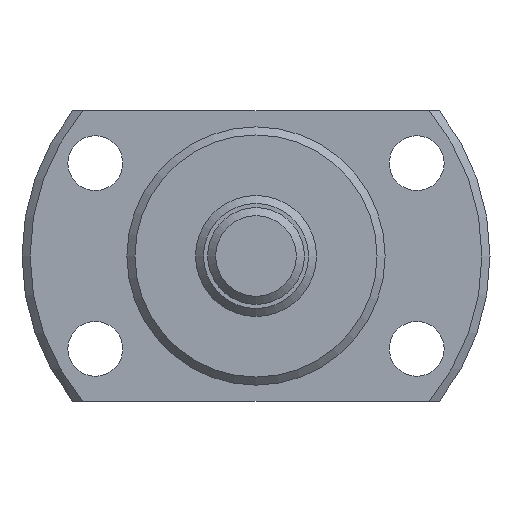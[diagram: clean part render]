
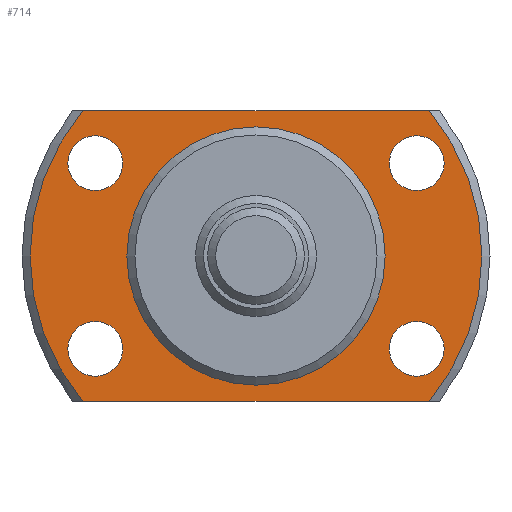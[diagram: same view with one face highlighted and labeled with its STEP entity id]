
A CAD part, left-side view. The second image highlights one B-rep face of the part: STEP entity #714.
In plain terms, the highlighted planar face has unit normal (-1, 0, 0).
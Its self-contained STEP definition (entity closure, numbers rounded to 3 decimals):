
#78=LINE('',#1249,#99);
#79=LINE('',#1253,#100);
#99=VECTOR('',#1030,1000.);
#100=VECTOR('',#1033,1000.);
#200=ORIENTED_EDGE('',*,*,#323,.T.);
#201=ORIENTED_EDGE('',*,*,#324,.T.);
#202=ORIENTED_EDGE('',*,*,#325,.T.);
#203=ORIENTED_EDGE('',*,*,#326,.T.);
#204=ORIENTED_EDGE('',*,*,#309,.F.);
#205=ORIENTED_EDGE('',*,*,#327,.T.);
#206=ORIENTED_EDGE('',*,*,#328,.F.);
#207=ORIENTED_EDGE('',*,*,#329,.T.);
#208=ORIENTED_EDGE('',*,*,#322,.T.);
#309=EDGE_CURVE('',#386,#387,#447,.T.);
#322=EDGE_CURVE('',#398,#398,#455,.T.);
#323=EDGE_CURVE('',#399,#399,#456,.T.);
#324=EDGE_CURVE('',#400,#400,#457,.T.);
#325=EDGE_CURVE('',#401,#401,#458,.T.);
#326=EDGE_CURVE('',#402,#402,#459,.T.);
#327=EDGE_CURVE('',#386,#403,#78,.T.);
#328=EDGE_CURVE('',#404,#403,#460,.T.);
#329=EDGE_CURVE('',#404,#387,#79,.T.);
#386=VERTEX_POINT('',#1197);
#387=VERTEX_POINT('',#1199);
#398=VERTEX_POINT('',#1239);
#399=VERTEX_POINT('',#1242);
#400=VERTEX_POINT('',#1244);
#401=VERTEX_POINT('',#1246);
#402=VERTEX_POINT('',#1248);
#403=VERTEX_POINT('',#1250);
#404=VERTEX_POINT('',#1252);
#447=CIRCLE('',#813,14.);
#455=CIRCLE('',#828,7.85);
#456=CIRCLE('',#830,1.7);
#457=CIRCLE('',#831,1.7);
#458=CIRCLE('',#832,1.7);
#459=CIRCLE('',#833,1.7);
#460=CIRCLE('',#834,14.);
#534=EDGE_LOOP('',(#200));
#535=EDGE_LOOP('',(#201));
#536=EDGE_LOOP('',(#202));
#537=EDGE_LOOP('',(#203));
#538=EDGE_LOOP('',(#204,#205,#206,#207));
#539=EDGE_LOOP('',(#208));
#627=FACE_BOUND('',#534,.T.);
#628=FACE_BOUND('',#535,.T.);
#629=FACE_BOUND('',#536,.T.);
#630=FACE_BOUND('',#537,.T.);
#631=FACE_BOUND('',#538,.T.);
#632=FACE_BOUND('',#539,.T.);
#672=PLANE('',#829);
#714=ADVANCED_FACE('',(#627,#628,#629,#630,#631,#632),#672,.F.);
#813=AXIS2_PLACEMENT_3D('',#1198,#986,#987);
#828=AXIS2_PLACEMENT_3D('',#1238,#1018,#1019);
#829=AXIS2_PLACEMENT_3D('',#1240,#1020,#1021);
#830=AXIS2_PLACEMENT_3D('',#1241,#1022,#1023);
#831=AXIS2_PLACEMENT_3D('',#1243,#1024,#1025);
#832=AXIS2_PLACEMENT_3D('',#1245,#1026,#1027);
#833=AXIS2_PLACEMENT_3D('',#1247,#1028,#1029);
#834=AXIS2_PLACEMENT_3D('',#1251,#1031,#1032);
#986=DIRECTION('',(1.,0.,0.));
#987=DIRECTION('',(0.,0.,-1.));
#1018=DIRECTION('',(1.,0.,0.));
#1019=DIRECTION('',(0.,0.,-1.));
#1020=DIRECTION('',(1.,0.,0.));
#1021=DIRECTION('',(0.,0.,-1.));
#1022=DIRECTION('',(1.,0.,0.));
#1023=DIRECTION('',(0.,0.,-1.));
#1024=DIRECTION('',(1.,0.,0.));
#1025=DIRECTION('',(0.,0.,-1.));
#1026=DIRECTION('',(1.,0.,0.));
#1027=DIRECTION('',(0.,0.,-1.));
#1028=DIRECTION('',(1.,0.,0.));
#1029=DIRECTION('',(0.,0.,-1.));
#1030=DIRECTION('',(0.,-1.,0.));
#1031=DIRECTION('',(1.,0.,0.));
#1032=DIRECTION('',(0.,0.,-1.));
#1033=DIRECTION('',(0.,1.,0.));
#1197=CARTESIAN_POINT('',(12.,10.724,-9.));
#1198=CARTESIAN_POINT('',(12.,0.,0.));
#1199=CARTESIAN_POINT('',(12.,10.724,9.));
#1238=CARTESIAN_POINT('',(12.,0.,0.));
#1239=CARTESIAN_POINT('',(12.,0.,-7.85));
#1240=CARTESIAN_POINT('',(12.,7.85,0.));
#1241=CARTESIAN_POINT('',(12.,-9.959,-5.75));
#1242=CARTESIAN_POINT('',(12.,-9.959,-7.45));
#1243=CARTESIAN_POINT('',(12.,-9.959,5.75));
#1244=CARTESIAN_POINT('',(12.,-9.959,4.05));
#1245=CARTESIAN_POINT('',(12.,9.959,-5.75));
#1246=CARTESIAN_POINT('',(12.,9.959,-7.45));
#1247=CARTESIAN_POINT('',(12.,9.959,5.75));
#1248=CARTESIAN_POINT('',(12.,9.959,4.05));
#1249=CARTESIAN_POINT('',(12.,7.85,-9.));
#1250=CARTESIAN_POINT('',(12.,-10.724,-9.));
#1251=CARTESIAN_POINT('',(12.,0.,0.));
#1252=CARTESIAN_POINT('',(12.,-10.724,9.));
#1253=CARTESIAN_POINT('',(12.,7.85,9.));
